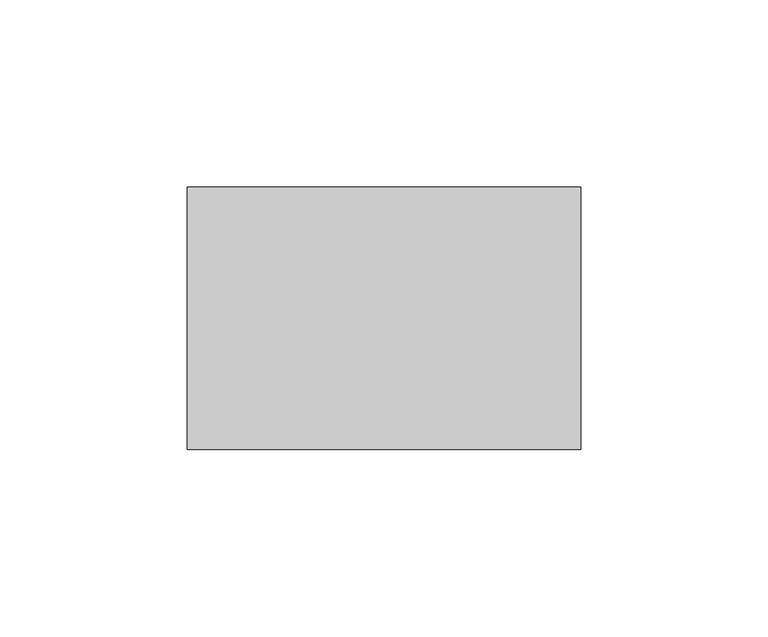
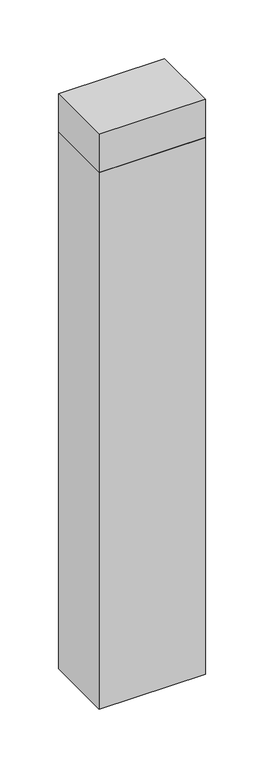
"""IFC4 building model written with IfcOpenShell, lengths in millimetres: plate geometry, 営_パーティションパネル_上部 : パーティションパネル_上部."""

from ifc_helpers import new_model, si_unit, frame, origin, origin_with_axes, place, context, project, spatial, polyline, outline, extrude, source, transform, mapped, element, save


def plate_1920d3b0(model_context):
    return source(origin(), model_context, "Body", "SweptSolid", [
        extrude(outline(polyline([(-52.4999998, -35.0), (-52.4999998, 35.0), (52.4999998, 35.0), (52.4999998, -35.0), (-52.4999998, -35.0)])), origin_with_axes(), (0.0, 0.0, 1.0), 560.0),
        extrude(outline(polyline([(-52.4999998, -35.0), (-52.4999998, 35.0), (52.4999998, 35.0), (52.4999998, -35.0), (-52.4999998, -35.0)])), frame((0.0, 0.0, 560.0), z_axis=(0.0, 0.0, 1.0), x_axis=(1.0, 0.0, 0.0)), (0.0, 0.0, 1.0), 40.0),
    ])


if __name__ == "__main__":
    model = new_model("IFC4")
    model_context = context("Model", 3, world=origin())
    ifc_project = project(units=[si_unit("LENGTHUNIT", "METRE", prefix="MILLI")], contexts=[model_context])
    site = spatial("IfcSite", under=ifc_project)
    building = spatial("IfcBuilding", under=site)
    placement = place(None, origin())
    plate_shape = plate_1920d3b0(model_context)
    element("IfcPlate", 1, ObjectType="営_パーティションパネル_上部 : パーティションパネル_上部", at=placement, inside=building, context=model_context, shape_type="MappedRepresentation", body=[
        mapped(plate_shape, transform((0.0, 0.0, 0.0), x_axis=(1.0, 0.0, 0.0), y_axis=(0.0, 1.0, 0.0), z_axis=(0.0, 0.0, 1.0))),
    ])
    save(model, "model.ifc")
